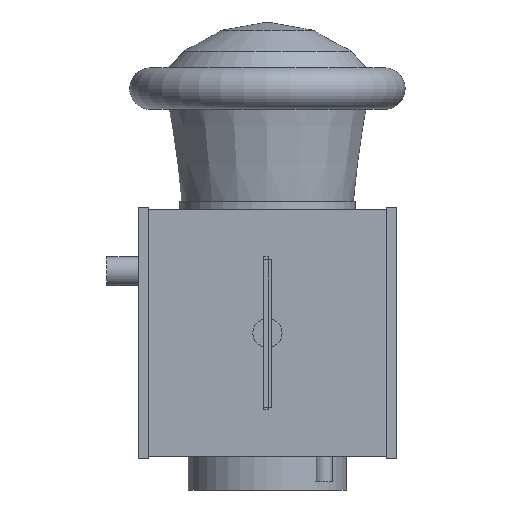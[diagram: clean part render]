
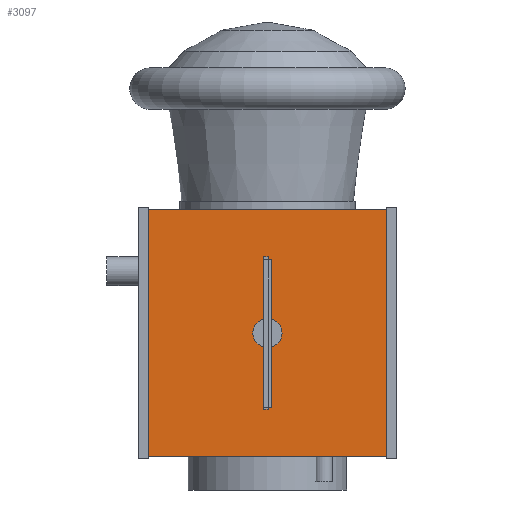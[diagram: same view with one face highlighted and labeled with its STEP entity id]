
A CAD part, left-side view. The second image highlights one B-rep face of the part: STEP entity #3097.
In plain terms, the highlighted planar face has unit normal (-1, 0, 0).
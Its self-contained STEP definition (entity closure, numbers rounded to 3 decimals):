
#3097 = ADVANCED_FACE('',(#3098),#3112,.F.);
#3098 = FACE_BOUND('',#3099,.F.);
#3099 = EDGE_LOOP('',(#3100,#3135,#3163,#3191));
#3100 = ORIENTED_EDGE('',*,*,#3101,.F.);
#3101 = EDGE_CURVE('',#3102,#3104,#3106,.T.);
#3102 = VERTEX_POINT('',#3103);
#3103 = CARTESIAN_POINT('',(-0.296,-0.296,-0.594));
#3104 = VERTEX_POINT('',#3105);
#3105 = CARTESIAN_POINT('',(-0.296,-0.296,0.));
#3106 = SURFACE_CURVE('',#3107,(#3111,#3123),.PCURVE_S1.);
#3107 = LINE('',#3108,#3109);
#3108 = CARTESIAN_POINT('',(-0.296,-0.296,-0.594));
#3109 = VECTOR('',#3110,1.);
#3110 = DIRECTION('',(0.,0.,1.));
#3111 = PCURVE('',#3112,#3117);
#3112 = PLANE('',#3113);
#3113 = AXIS2_PLACEMENT_3D('',#3114,#3115,#3116);
#3114 = CARTESIAN_POINT('',(-0.296,-0.296,-0.594));
#3115 = DIRECTION('',(1.,0.,0.));
#3116 = DIRECTION('',(0.,0.,1.));
#3117 = DEFINITIONAL_REPRESENTATION('',(#3118),#3122);
#3118 = LINE('',#3119,#3120);
#3119 = CARTESIAN_POINT('',(0.,0.));
#3120 = VECTOR('',#3121,1.);
#3121 = DIRECTION('',(1.,0.));
#3122 = ( GEOMETRIC_REPRESENTATION_CONTEXT(2) 
PARAMETRIC_REPRESENTATION_CONTEXT() REPRESENTATION_CONTEXT('2D SPACE',''
  ) );
#3123 = PCURVE('',#3124,#3129);
#3124 = PLANE('',#3125);
#3125 = AXIS2_PLACEMENT_3D('',#3126,#3127,#3128);
#3126 = CARTESIAN_POINT('',(-0.296,-0.296,-0.594));
#3127 = DIRECTION('',(0.,1.,0.));
#3128 = DIRECTION('',(0.,0.,1.));
#3129 = DEFINITIONAL_REPRESENTATION('',(#3130),#3134);
#3130 = LINE('',#3131,#3132);
#3131 = CARTESIAN_POINT('',(0.,0.));
#3132 = VECTOR('',#3133,1.);
#3133 = DIRECTION('',(1.,0.));
#3134 = ( GEOMETRIC_REPRESENTATION_CONTEXT(2) 
PARAMETRIC_REPRESENTATION_CONTEXT() REPRESENTATION_CONTEXT('2D SPACE',''
  ) );
#3135 = ORIENTED_EDGE('',*,*,#3136,.T.);
#3136 = EDGE_CURVE('',#3102,#3137,#3139,.T.);
#3137 = VERTEX_POINT('',#3138);
#3138 = CARTESIAN_POINT('',(-0.296,0.296,-0.594));
#3139 = SURFACE_CURVE('',#3140,(#3144,#3151),.PCURVE_S1.);
#3140 = LINE('',#3141,#3142);
#3141 = CARTESIAN_POINT('',(-0.296,-0.296,-0.594));
#3142 = VECTOR('',#3143,1.);
#3143 = DIRECTION('',(0.,1.,0.));
#3144 = PCURVE('',#3112,#3145);
#3145 = DEFINITIONAL_REPRESENTATION('',(#3146),#3150);
#3146 = LINE('',#3147,#3148);
#3147 = CARTESIAN_POINT('',(0.,0.));
#3148 = VECTOR('',#3149,1.);
#3149 = DIRECTION('',(0.,-1.));
#3150 = ( GEOMETRIC_REPRESENTATION_CONTEXT(2) 
PARAMETRIC_REPRESENTATION_CONTEXT() REPRESENTATION_CONTEXT('2D SPACE',''
  ) );
#3151 = PCURVE('',#3152,#3157);
#3152 = PLANE('',#3153);
#3153 = AXIS2_PLACEMENT_3D('',#3154,#3155,#3156);
#3154 = CARTESIAN_POINT('',(-0.296,-0.296,-0.594));
#3155 = DIRECTION('',(0.,0.,1.));
#3156 = DIRECTION('',(1.,0.,0.));
#3157 = DEFINITIONAL_REPRESENTATION('',(#3158),#3162);
#3158 = LINE('',#3159,#3160);
#3159 = CARTESIAN_POINT('',(0.,0.));
#3160 = VECTOR('',#3161,1.);
#3161 = DIRECTION('',(0.,1.));
#3162 = ( GEOMETRIC_REPRESENTATION_CONTEXT(2) 
PARAMETRIC_REPRESENTATION_CONTEXT() REPRESENTATION_CONTEXT('2D SPACE',''
  ) );
#3163 = ORIENTED_EDGE('',*,*,#3164,.T.);
#3164 = EDGE_CURVE('',#3137,#3165,#3167,.T.);
#3165 = VERTEX_POINT('',#3166);
#3166 = CARTESIAN_POINT('',(-0.296,0.296,0.));
#3167 = SURFACE_CURVE('',#3168,(#3172,#3179),.PCURVE_S1.);
#3168 = LINE('',#3169,#3170);
#3169 = CARTESIAN_POINT('',(-0.296,0.296,-0.594));
#3170 = VECTOR('',#3171,1.);
#3171 = DIRECTION('',(0.,0.,1.));
#3172 = PCURVE('',#3112,#3173);
#3173 = DEFINITIONAL_REPRESENTATION('',(#3174),#3178);
#3174 = LINE('',#3175,#3176);
#3175 = CARTESIAN_POINT('',(0.,-0.591));
#3176 = VECTOR('',#3177,1.);
#3177 = DIRECTION('',(1.,0.));
#3178 = ( GEOMETRIC_REPRESENTATION_CONTEXT(2) 
PARAMETRIC_REPRESENTATION_CONTEXT() REPRESENTATION_CONTEXT('2D SPACE',''
  ) );
#3179 = PCURVE('',#3180,#3185);
#3180 = PLANE('',#3181);
#3181 = AXIS2_PLACEMENT_3D('',#3182,#3183,#3184);
#3182 = CARTESIAN_POINT('',(-0.296,0.296,-0.594));
#3183 = DIRECTION('',(0.,1.,0.));
#3184 = DIRECTION('',(0.,0.,1.));
#3185 = DEFINITIONAL_REPRESENTATION('',(#3186),#3190);
#3186 = LINE('',#3187,#3188);
#3187 = CARTESIAN_POINT('',(0.,0.));
#3188 = VECTOR('',#3189,1.);
#3189 = DIRECTION('',(1.,0.));
#3190 = ( GEOMETRIC_REPRESENTATION_CONTEXT(2) 
PARAMETRIC_REPRESENTATION_CONTEXT() REPRESENTATION_CONTEXT('2D SPACE',''
  ) );
#3191 = ORIENTED_EDGE('',*,*,#3192,.F.);
#3192 = EDGE_CURVE('',#3104,#3165,#3193,.T.);
#3193 = SURFACE_CURVE('',#3194,(#3198,#3205),.PCURVE_S1.);
#3194 = LINE('',#3195,#3196);
#3195 = CARTESIAN_POINT('',(-0.296,-0.296,0.));
#3196 = VECTOR('',#3197,1.);
#3197 = DIRECTION('',(0.,1.,0.));
#3198 = PCURVE('',#3112,#3199);
#3199 = DEFINITIONAL_REPRESENTATION('',(#3200),#3204);
#3200 = LINE('',#3201,#3202);
#3201 = CARTESIAN_POINT('',(0.594,0.));
#3202 = VECTOR('',#3203,1.);
#3203 = DIRECTION('',(0.,-1.));
#3204 = ( GEOMETRIC_REPRESENTATION_CONTEXT(2) 
PARAMETRIC_REPRESENTATION_CONTEXT() REPRESENTATION_CONTEXT('2D SPACE',''
  ) );
#3205 = PCURVE('',#3206,#3211);
#3206 = PLANE('',#3207);
#3207 = AXIS2_PLACEMENT_3D('',#3208,#3209,#3210);
#3208 = CARTESIAN_POINT('',(-0.296,-0.296,0.));
#3209 = DIRECTION('',(0.,0.,1.));
#3210 = DIRECTION('',(1.,0.,0.));
#3211 = DEFINITIONAL_REPRESENTATION('',(#3212),#3216);
#3212 = LINE('',#3213,#3214);
#3213 = CARTESIAN_POINT('',(0.,0.));
#3214 = VECTOR('',#3215,1.);
#3215 = DIRECTION('',(0.,1.));
#3216 = ( GEOMETRIC_REPRESENTATION_CONTEXT(2) 
PARAMETRIC_REPRESENTATION_CONTEXT() REPRESENTATION_CONTEXT('2D SPACE',''
  ) );
